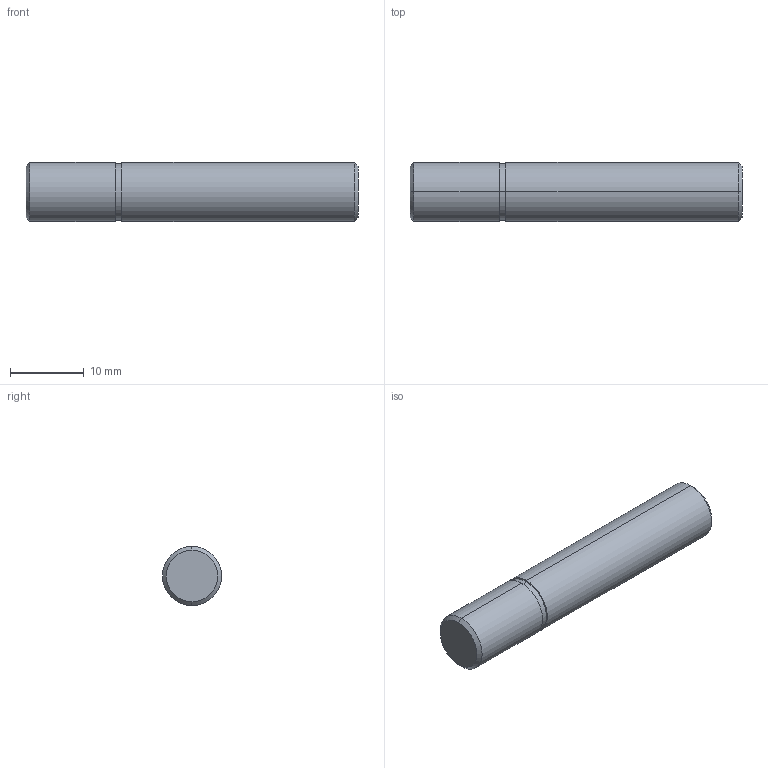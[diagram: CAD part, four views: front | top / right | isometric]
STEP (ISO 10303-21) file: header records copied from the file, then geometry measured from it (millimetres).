
FILE_DESCRIPTION (( 'STEP AP203' ), '1' );
FILE_NAME ('084.800.007.STEP', '2013-01-29T09:15:44', ( 'Alusic' ), ( 'Alusic' ), 'SwSTEP 2.0', 'SolidWorks 2011', '' );
FILE_SCHEMA (( 'CONFIG_CONTROL_DESIGN' ));
Length unit declared in the file: millimetre
Products named in the file (1): 084.800.007
Bounding box: 45 x 8 x 8 mm (x, y, z)
Volume: 2251.5 mm3; surface area: 1224.8 mm2
Topology: 1 solids, 1 shells, 14 faces, 26 edges, 16 vertices
Faces by surface type: cylinder 6, cone 4, plane 4
Entity records: 431 total; most frequent: DIRECTION 72, CARTESIAN_POINT 57, ORIENTED_EDGE 52, AXIS2_PLACEMENT_3D 31, EDGE_CURVE 26, VERTEX_POINT 16, EDGE_LOOP 16, CIRCLE 16
